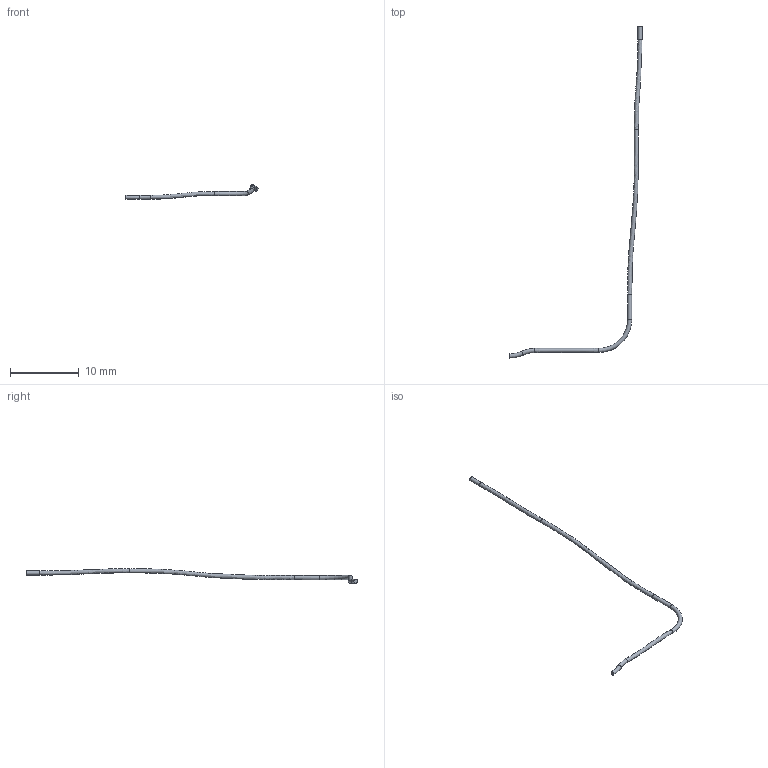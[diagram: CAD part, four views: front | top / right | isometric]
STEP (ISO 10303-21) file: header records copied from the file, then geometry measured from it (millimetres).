
FILE_DESCRIPTION(('FreeCAD Model'),'2;1');
FILE_NAME('Open CASCADE Shape Model','2026-11-12T12:42:08',('FreeCAD'),( 'FreeCAD'),'Open CASCADE STEP processor 7.8','FreeCAD','Unknown');
FILE_SCHEMA(('AUTOMOTIVE_DESIGN { 1 0 10303 214 1 1 1 1 }'));
Length unit declared in the file: millimetre
Products named in the file (1): Open CASCADE STEP translator 7.8 7
Bounding box: 19.23 x 48.34 x 2.1 mm (x, y, z)
Volume: 17.8 mm3; surface area: 119.2 mm2
Topology: 1 solids, 1 shells, 10 faces, 17 edges, 9 vertices
Faces by surface type: bspline 3, torus 3, cylinder 2, plane 2
Full cylindrical faces by diameter (mm): 0.6 x2
Entity records: 2676 total; most frequent: CARTESIAN_POINT 2496, DIRECTION 36, ORIENTED_EDGE 34, AXIS2_PLACEMENT_3D 17, EDGE_CURVE 17, ADVANCED_FACE 10, FACE_BOUND 10, EDGE_LOOP 10
